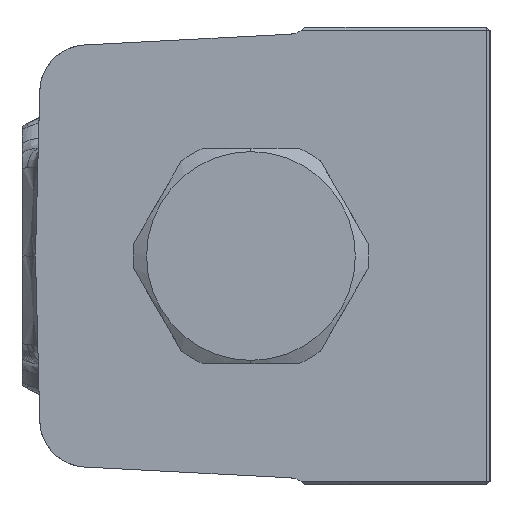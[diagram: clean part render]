
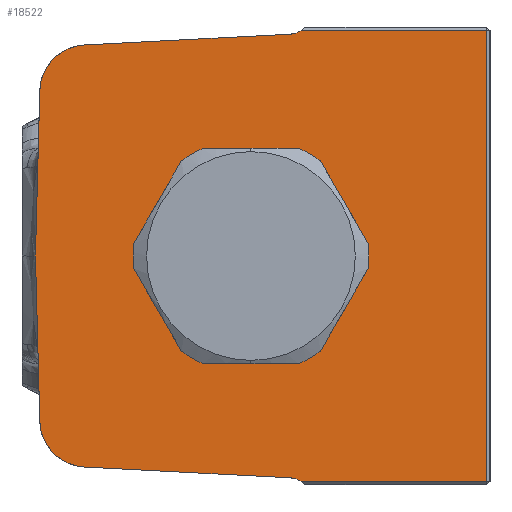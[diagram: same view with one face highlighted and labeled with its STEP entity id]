
A CAD part, left-side view. The second image highlights one B-rep face of the part: STEP entity #18522.
In plain terms, the highlighted planar face has unit normal (-1, 0, 0).
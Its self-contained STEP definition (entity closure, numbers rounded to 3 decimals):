
#182 = DIRECTION ( 'NONE',  ( 0., -1., 0. ) ) ;
#203 = EDGE_LOOP ( 'NONE', ( #19897, #355, #7546, #15440, #436, #23501, #21964, #12415, #11364, #6124, #8877 ) ) ;
#328 = DIRECTION ( 'NONE',  ( 1., 0., 0. ) ) ;
#355 = ORIENTED_EDGE ( 'NONE', *, *, #7331, .T. ) ;
#436 = ORIENTED_EDGE ( 'NONE', *, *, #14750, .T. ) ;
#636 = EDGE_CURVE ( 'NONE', #7993, #6724, #14933, .T. ) ;
#658 = VERTEX_POINT ( 'NONE', #16562 ) ;
#1202 = DIRECTION ( 'NONE',  ( 0., -1., 0. ) ) ;
#1548 = CARTESIAN_POINT ( 'NONE',  ( -46.6, 31.978, 0.837 ) ) ;
#1556 = VERTEX_POINT ( 'NONE', #22345 ) ;
#1813 = VERTEX_POINT ( 'NONE', #4958 ) ;
#2885 = CARTESIAN_POINT ( 'NONE',  ( -46.6, 16., 0. ) ) ;
#3019 = CIRCLE ( 'NONE', #16977, 7. ) ;
#3169 = EDGE_CURVE ( 'NONE', #12313, #6724, #8272, .T. ) ;
#3452 = DIRECTION ( 'NONE',  ( 0., -0.026, 1. ) ) ;
#3778 = CIRCLE ( 'NONE', #17755, 3. ) ;
#4301 = VECTOR ( 'NONE', #3452, 1000. ) ;
#4406 = EDGE_CURVE ( 'NONE', #12313, #7281, #11492, .T. ) ;
#4636 = DIRECTION ( 'NONE',  ( -1., 0., 0. ) ) ;
#4703 = VECTOR ( 'NONE', #19122, 1000. ) ;
#4958 = CARTESIAN_POINT ( 'NONE',  ( -46.6, 24.726, 31.337 ) ) ;
#5180 = DIRECTION ( 'NONE',  ( 1., 0., 0. ) ) ;
#5308 = VERTEX_POINT ( 'NONE', #21288 ) ;
#5419 = CARTESIAN_POINT ( 'NONE',  ( -46.6, 24.36, 24.347 ) ) ;
#5715 = CARTESIAN_POINT ( 'NONE',  ( -46.6, -35.5, -33.5 ) ) ;
#5867 = CARTESIAN_POINT ( 'NONE',  ( -46.6, -5.85, 32.94 ) ) ;
#6074 = EDGE_CURVE ( 'NONE', #7281, #5308, #16943, .T. ) ;
#6124 = ORIENTED_EDGE ( 'NONE', *, *, #3169, .F. ) ;
#6613 = VECTOR ( 'NONE', #15849, 1000. ) ;
#6724 = VERTEX_POINT ( 'NONE', #18541 ) ;
#7068 = LINE ( 'NONE', #5715, #21229 ) ;
#7281 = VERTEX_POINT ( 'NONE', #7508 ) ;
#7290 = DIRECTION ( 'NONE',  ( 0., 0., 1. ) ) ;
#7331 = EDGE_CURVE ( 'NONE', #5308, #9850, #7068, .T. ) ;
#7436 = AXIS2_PLACEMENT_3D ( 'NONE', #16244, #5180, #18117 ) ;
#7508 = CARTESIAN_POINT ( 'NONE',  ( -46.6, -5.85, -32.94 ) ) ;
#7546 = ORIENTED_EDGE ( 'NONE', *, *, #8562, .T. ) ;
#7783 = CARTESIAN_POINT ( 'NONE',  ( -46.6, -35.5, -34. ) ) ;
#7993 = VERTEX_POINT ( 'NONE', #21101 ) ;
#8100 = EDGE_CURVE ( 'NONE', #14886, #20347, #18760, .T. ) ;
#8272 = CIRCLE ( 'NONE', #7436, 7. ) ;
#8562 = EDGE_CURVE ( 'NONE', #9850, #658, #9587, .T. ) ;
#8579 = AXIS2_PLACEMENT_3D ( 'NONE', #15701, #4636, #17585 ) ;
#8877 = ORIENTED_EDGE ( 'NONE', *, *, #4406, .T. ) ;
#8935 = CARTESIAN_POINT ( 'NONE',  ( -46.6, 1.706, 32.544 ) ) ;
#9225 = CARTESIAN_POINT ( 'NONE',  ( -46.6, 31.978, -0.837 ) ) ;
#9587 = LINE ( 'NONE', #13532, #4703 ) ;
#9624 = DIRECTION ( 'NONE',  ( 0., 0., 1. ) ) ;
#9775 = CARTESIAN_POINT ( 'NONE',  ( -46.6, -35.5, 33.5 ) ) ;
#9850 = VERTEX_POINT ( 'NONE', #11503 ) ;
#10009 = VECTOR ( 'NONE', #18553, 1000. ) ;
#10267 = AXIS2_PLACEMENT_3D ( 'NONE', #7783, #20690, #9624 ) ;
#10343 = FACE_OUTER_BOUND ( 'NONE', #203, .T. ) ;
#10450 = DIRECTION ( 'NONE',  ( 1., 0., 0. ) ) ;
#10778 = DIRECTION ( 'NONE',  ( 0., -0.999, 0.052 ) ) ;
#11364 = ORIENTED_EDGE ( 'NONE', *, *, #636, .T. ) ;
#11420 = CARTESIAN_POINT ( 'NONE',  ( -46.6, -5.693, 35.936 ) ) ;
#11492 = LINE ( 'NONE', #17724, #6613 ) ;
#11503 = CARTESIAN_POINT ( 'NONE',  ( -46.6, -35., -33.5 ) ) ;
#11938 = AXIS2_PLACEMENT_3D ( 'NONE', #21540, #10450, #23390 ) ;
#12045 = VERTEX_POINT ( 'NONE', #12499 ) ;
#12253 = EDGE_CURVE ( 'NONE', #658, #12045, #13876, .T. ) ;
#12269 = DIRECTION ( 'NONE',  ( -1., 0., 0. ) ) ;
#12313 = VERTEX_POINT ( 'NONE', #22709 ) ;
#12415 = ORIENTED_EDGE ( 'NONE', *, *, #23432, .F. ) ;
#12499 = CARTESIAN_POINT ( 'NONE',  ( -46.6, -7.444, 33.5 ) ) ;
#13285 = DIRECTION ( 'NONE',  ( 0., 0., 1. ) ) ;
#13532 = CARTESIAN_POINT ( 'NONE',  ( -46.6, -35., -34. ) ) ;
#13729 = AXIS2_PLACEMENT_3D ( 'NONE', #23367, #12269, #1202 ) ;
#13790 = LINE ( 'NONE', #8935, #23063 ) ;
#13876 = LINE ( 'NONE', #9775, #23139 ) ;
#14100 = LINE ( 'NONE', #1548, #4301 ) ;
#14127 = EDGE_LOOP ( 'NONE', ( #18359, #18194 ) ) ;
#14750 = EDGE_CURVE ( 'NONE', #12045, #21197, #3778, .T. ) ;
#14886 = VERTEX_POINT ( 'NONE', #21202 ) ;
#14933 = LINE ( 'NONE', #9225, #10009 ) ;
#15440 = ORIENTED_EDGE ( 'NONE', *, *, #12253, .T. ) ;
#15701 = CARTESIAN_POINT ( 'NONE',  ( -46.6, 0., 0. ) ) ;
#15849 = DIRECTION ( 'NONE',  ( 0., -0.999, -0.052 ) ) ;
#15992 = EDGE_CURVE ( 'NONE', #1813, #21197, #13790, .T. ) ;
#16244 = CARTESIAN_POINT ( 'NONE',  ( -46.6, 24.36, -24.347 ) ) ;
#16413 = CIRCLE ( 'NONE', #8579, 16. ) ;
#16562 = CARTESIAN_POINT ( 'NONE',  ( -46.6, -35., 33.5 ) ) ;
#16943 = CIRCLE ( 'NONE', #11938, 3. ) ;
#16977 = AXIS2_PLACEMENT_3D ( 'NONE', #5419, #18371, #7290 ) ;
#17585 = DIRECTION ( 'NONE',  ( 0., -1., 0. ) ) ;
#17724 = CARTESIAN_POINT ( 'NONE',  ( -46.6, 1.706, -32.544 ) ) ;
#17755 = AXIS2_PLACEMENT_3D ( 'NONE', #11420, #328, #13285 ) ;
#18117 = DIRECTION ( 'NONE',  ( 0., 0., 1. ) ) ;
#18194 = ORIENTED_EDGE ( 'NONE', *, *, #18748, .F. ) ;
#18359 = ORIENTED_EDGE ( 'NONE', *, *, #8100, .F. ) ;
#18371 = DIRECTION ( 'NONE',  ( -1., 0., 0. ) ) ;
#18522 = ADVANCED_FACE ( 'NONE', ( #10343, #20158 ), #22500, .T. ) ;
#18541 = CARTESIAN_POINT ( 'NONE',  ( -46.6, 31.358, -24.53 ) ) ;
#18553 = DIRECTION ( 'NONE',  ( 0., -0.026, -1. ) ) ;
#18748 = EDGE_CURVE ( 'NONE', #20347, #14886, #16413, .T. ) ;
#18760 = CIRCLE ( 'NONE', #13729, 16. ) ;
#19122 = DIRECTION ( 'NONE',  ( 0., 0., 1. ) ) ;
#19705 = EDGE_CURVE ( 'NONE', #1813, #1556, #3019, .T. ) ;
#19897 = ORIENTED_EDGE ( 'NONE', *, *, #6074, .T. ) ;
#20158 = FACE_BOUND ( 'NONE', #14127, .T. ) ;
#20347 = VERTEX_POINT ( 'NONE', #2885 ) ;
#20690 = DIRECTION ( 'NONE',  ( -1., 0., 0. ) ) ;
#21101 = CARTESIAN_POINT ( 'NONE',  ( -46.6, 32., 0. ) ) ;
#21197 = VERTEX_POINT ( 'NONE', #5867 ) ;
#21202 = CARTESIAN_POINT ( 'NONE',  ( -46.6, -16., 0. ) ) ;
#21229 = VECTOR ( 'NONE', #182, 1000. ) ;
#21288 = CARTESIAN_POINT ( 'NONE',  ( -46.6, -7.444, -33.5 ) ) ;
#21540 = CARTESIAN_POINT ( 'NONE',  ( -46.6, -5.693, -35.936 ) ) ;
#21964 = ORIENTED_EDGE ( 'NONE', *, *, #19705, .T. ) ;
#22345 = CARTESIAN_POINT ( 'NONE',  ( -46.6, 31.358, 24.53 ) ) ;
#22500 = PLANE ( 'NONE',  #10267 ) ;
#22709 = CARTESIAN_POINT ( 'NONE',  ( -46.6, 24.726, -31.337 ) ) ;
#22786 = DIRECTION ( 'NONE',  ( 0., 1., 0. ) ) ;
#23063 = VECTOR ( 'NONE', #10778, 1000. ) ;
#23139 = VECTOR ( 'NONE', #22786, 1000. ) ;
#23367 = CARTESIAN_POINT ( 'NONE',  ( -46.6, 0., 0. ) ) ;
#23390 = DIRECTION ( 'NONE',  ( 0., 0., 1. ) ) ;
#23432 = EDGE_CURVE ( 'NONE', #7993, #1556, #14100, .T. ) ;
#23501 = ORIENTED_EDGE ( 'NONE', *, *, #15992, .F. ) ;
